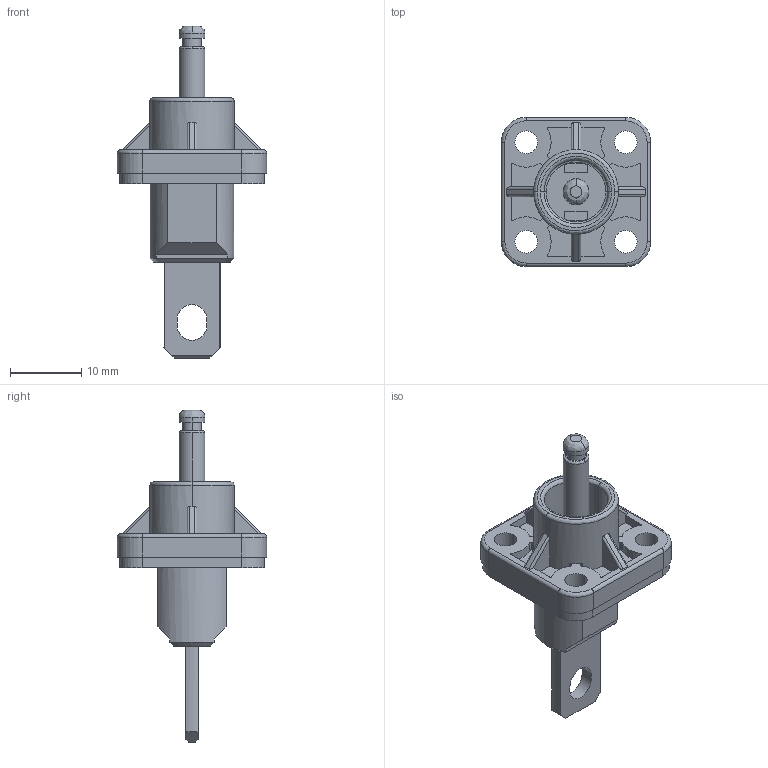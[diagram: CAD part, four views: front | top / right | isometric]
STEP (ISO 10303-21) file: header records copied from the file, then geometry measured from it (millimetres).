
FILE_DESCRIPTION (( 'STEP AP214' ), '1' );
FILE_NAME ('RL9036-20X-F1.STEP', '2017-01-12T01:19:00', ( '' ), ( '' ), 'SwSTEP 2.0', 'SolidWorks 2014', '' );
FILE_SCHEMA (( 'AUTOMOTIVE_DESIGN' ));
Length unit declared in the file: millimetre
Products named in the file (1): RL9036-20X-F1
Bounding box: 21 x 21 x 46.7 mm (x, y, z)
Volume: 3486.9 mm3; surface area: 2819.7 mm2
Topology: 1 solids, 1 shells, 199 faces, 530 edges, 347 vertices
Faces by surface type: cylinder 98, plane 84, bspline 14, cone 3
Entity records: 6598 total; most frequent: CARTESIAN_POINT 1564, ORIENTED_EDGE 1060, DIRECTION 1059, EDGE_CURVE 530, AXIS2_PLACEMENT_3D 390, VERTEX_POINT 347, LINE 279, VECTOR 279
